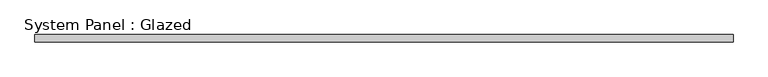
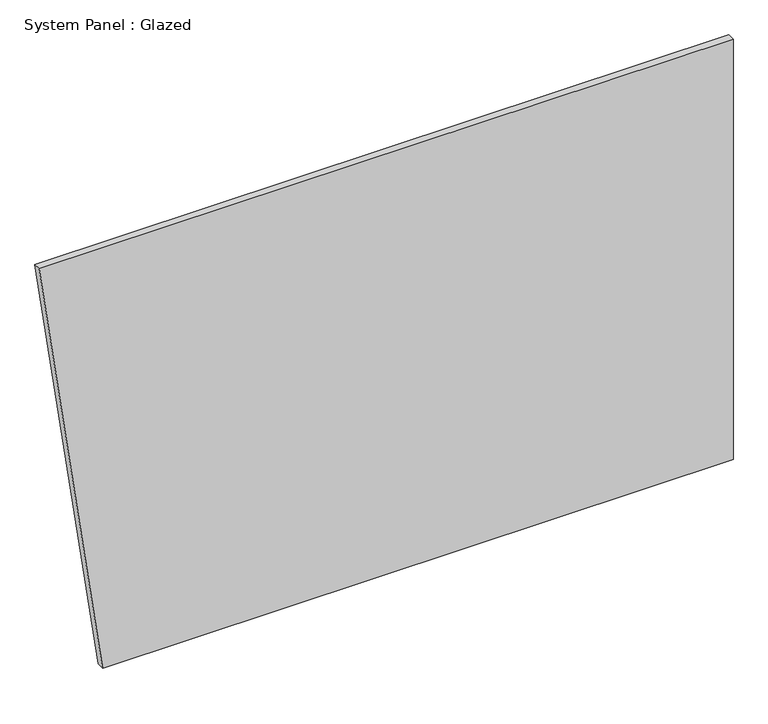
"""IFC4 building model written with IfcOpenShell, lengths in millimetres: plate geometry, System Panel : Glazed."""

from ifc_helpers import new_model, si_unit, frame, origin, place, context, project, spatial, polyline, outline, extrude, source, transform, mapped, element, save


def system_panel_glazed_49c9d228(model_context):
    return source(origin(), model_context, "Body", "SweptSolid", [
        extrude(outline(polyline([(0.0, -972.0215838), (0.0, 1189.0669389), (1524.0, 1189.0669389), (1524.0, -1189.0669389), (0.0, -972.0215838)])), frame((0.0, 19.05, 0.0), z_axis=(0.0, 1.0, 0.0), x_axis=(0.0, 0.0, 1.0)), (0.0, 0.0, 1.0), 25.4),
    ])


if __name__ == "__main__":
    model = new_model("IFC4")
    model_context = context("Model", 3, world=origin())
    ifc_project = project(units=[si_unit("LENGTHUNIT", "METRE", prefix="MILLI")], contexts=[model_context])
    site = spatial("IfcSite", under=ifc_project)
    building = spatial("IfcBuilding", under=site)
    placement = place(None, origin())
    system_panel_glazed_shape = system_panel_glazed_49c9d228(model_context)
    element("IfcPlate", 1, ObjectType="System Panel : Glazed", at=placement, inside=building, context=model_context, shape_type="MappedRepresentation", body=[
        mapped(system_panel_glazed_shape, transform((0.0, 0.0, 0.0), x_axis=(1.0, 0.0, 0.0), y_axis=(0.0, 1.0, 0.0), z_axis=(0.0, 0.0, 1.0))),
    ])
    save(model, "model.ifc")
